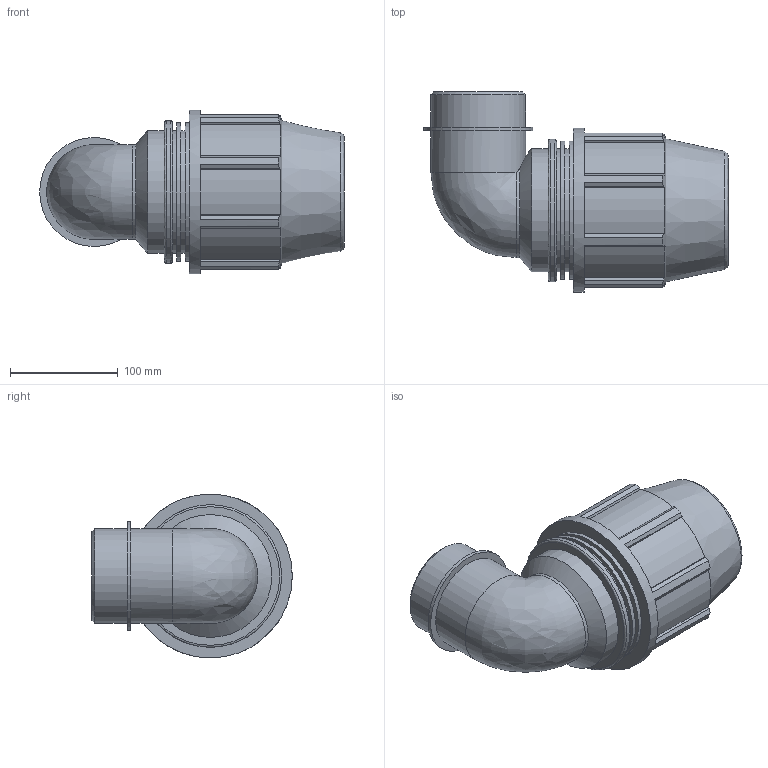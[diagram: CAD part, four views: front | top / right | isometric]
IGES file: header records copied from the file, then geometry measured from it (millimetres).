
Global section: file name: 878500090030_188500090030_848506090030.ipt; native system: Autodesk Inventor 2015; preprocessor: unknown; author: KIM; date: 20180325.201251; units: millimetre
Bounding box: 282.53 x 186 x 152 mm (x, y, z)
Volume: 1876701.1 mm3; surface area: 236981.2 mm2
Topology: 1 solids, 1 shells, 85 faces, 225 edges, 150 vertices
Faces by surface type: plane 52, cylinder 19, revolution 9, cone 4, bspline 1
Full cylindrical faces by diameter (mm): 87.884 x2, 101.067 x1, 114 x3, 128.273 x2, 132.24 x1, 152 x1
